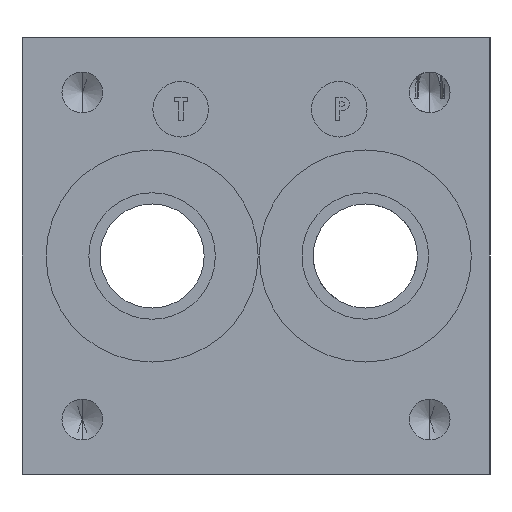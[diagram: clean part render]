
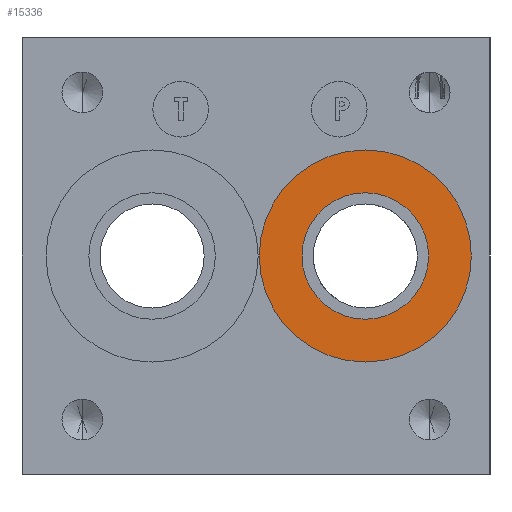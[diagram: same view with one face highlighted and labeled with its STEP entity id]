
A CAD part, left-side view. The second image highlights one B-rep face of the part: STEP entity #15336.
In plain terms, the highlighted planar face has unit normal (-1, 0, 0).
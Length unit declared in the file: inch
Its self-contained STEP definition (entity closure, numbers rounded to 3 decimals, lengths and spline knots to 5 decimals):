
#215 = DIRECTION ( 'NONE',  ( 0., 0., 1. ) ) ;
#232 = DIRECTION ( 'NONE',  ( -1., 0., 0. ) ) ;
#238 = AXIS2_PLACEMENT_3D ( 'NONE', #5674, #14621, #7001 ) ;
#256 = CARTESIAN_POINT ( 'NONE',  ( 0.031, 0.786, 1.375 ) ) ;
#258 = AXIS2_PLACEMENT_3D ( 'NONE', #9318, #1243, #10637 ) ;
#396 = CIRCLE ( 'NONE', #238, 0.6684 ) ;
#730 = ORIENTED_EDGE ( 'NONE', *, *, #13239, .F. ) ;
#1035 = AXIS2_PLACEMENT_3D ( 'NONE', #256, #232, #215 ) ;
#1243 = DIRECTION ( 'NONE',  ( -1., 0., 0. ) ) ;
#2331 = CIRCLE ( 'NONE', #2922, 0.6684 ) ;
#2472 = PLANE ( 'NONE',  #10368 ) ;
#2922 = AXIS2_PLACEMENT_3D ( 'NONE', #5934, #5712, #5735 ) ;
#4778 = CARTESIAN_POINT ( 'NONE',  ( 0.031, 0.786, 0.7066 ) ) ;
#4887 = ORIENTED_EDGE ( 'NONE', *, *, #7868, .T. ) ;
#5196 = CARTESIAN_POINT ( 'NONE',  ( 0.031, 0.786, 1.77385 ) ) ;
#5674 = CARTESIAN_POINT ( 'NONE',  ( 0.031, 0.786, 1.375 ) ) ;
#5712 = DIRECTION ( 'NONE',  ( -1., 0., 0. ) ) ;
#5735 = DIRECTION ( 'NONE',  ( 0., 0., 1. ) ) ;
#5934 = CARTESIAN_POINT ( 'NONE',  ( 0.031, 0.786, 1.375 ) ) ;
#6670 = DIRECTION ( 'NONE',  ( 1., 0., 0. ) ) ;
#6998 = CARTESIAN_POINT ( 'NONE',  ( 0.031, 0.786, 2.0434 ) ) ;
#7001 = DIRECTION ( 'NONE',  ( 0., 0., 1. ) ) ;
#7691 = EDGE_CURVE ( 'NONE', #8516, #15182, #11902, .T. ) ;
#7868 = EDGE_CURVE ( 'NONE', #15576, #11545, #2331, .T. ) ;
#8516 = VERTEX_POINT ( 'NONE', #5196 ) ;
#9318 = CARTESIAN_POINT ( 'NONE',  ( 0.031, 0.786, 1.375 ) ) ;
#9699 = CIRCLE ( 'NONE', #258, 0.39885 ) ;
#10368 = AXIS2_PLACEMENT_3D ( 'NONE', #14308, #6670, #15508 ) ;
#10629 = ORIENTED_EDGE ( 'NONE', *, *, #7691, .F. ) ;
#10637 = DIRECTION ( 'NONE',  ( 0., 0., 1. ) ) ;
#11545 = VERTEX_POINT ( 'NONE', #4778 ) ;
#11902 = CIRCLE ( 'NONE', #1035, 0.39885 ) ;
#12718 = FACE_BOUND ( 'NONE', #13851, .T. ) ;
#13104 = FACE_OUTER_BOUND ( 'NONE', #16261, .T. ) ;
#13239 = EDGE_CURVE ( 'NONE', #15182, #8516, #9699, .T. ) ;
#13384 = EDGE_CURVE ( 'NONE', #11545, #15576, #396, .T. ) ;
#13851 = EDGE_LOOP ( 'NONE', ( #10629, #730 ) ) ;
#14308 = CARTESIAN_POINT ( 'NONE',  ( 0.031, 0.786, 1.375 ) ) ;
#14621 = DIRECTION ( 'NONE',  ( -1., 0., 0. ) ) ;
#15182 = VERTEX_POINT ( 'NONE', #16543 ) ;
#15336 = ADVANCED_FACE ( 'NONE', ( #12718, #13104 ), #2472, .F. ) ;
#15508 = DIRECTION ( 'NONE',  ( 0., 0., -1. ) ) ;
#15576 = VERTEX_POINT ( 'NONE', #6998 ) ;
#15887 = ORIENTED_EDGE ( 'NONE', *, *, #13384, .T. ) ;
#16261 = EDGE_LOOP ( 'NONE', ( #4887, #15887 ) ) ;
#16543 = CARTESIAN_POINT ( 'NONE',  ( 0.031, 0.786, 0.97615 ) ) ;
